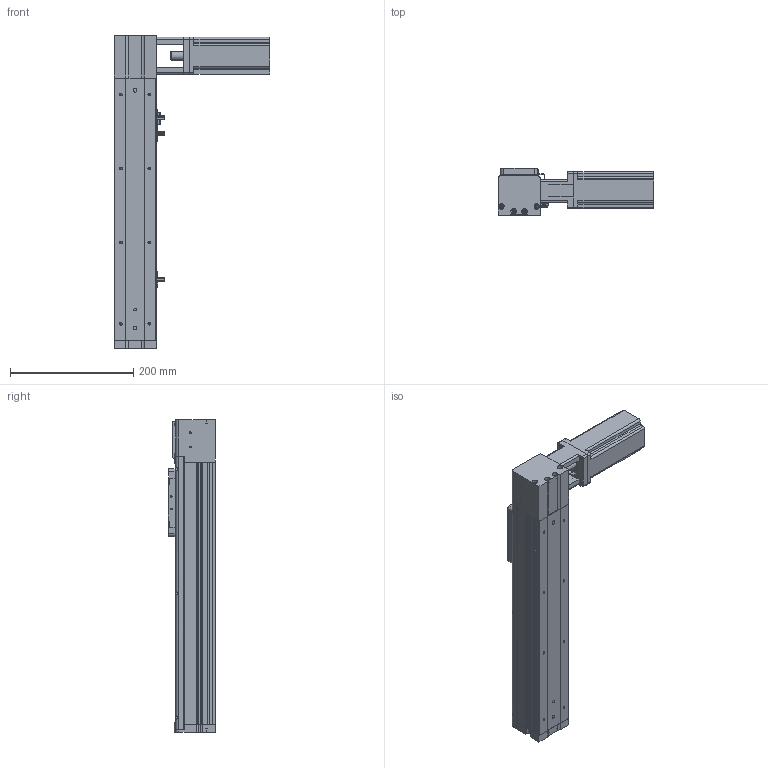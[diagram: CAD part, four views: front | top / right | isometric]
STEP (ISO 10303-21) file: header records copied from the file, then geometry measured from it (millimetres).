
FILE_DESCRIPTION (( 'STEP AP214' ), '1' );
FILE_NAME ('KSD68BS-S250-MRT-CR.STEP', '2019-11-08T01:18:06', ( '微软用户' ), ( '微软中国' ), 'SwSTEP 2.0', 'SolidWorks 2014', '' );
FILE_SCHEMA (( 'AUTOMOTIVE_DESIGN' ));
Length unit declared in the file: millimetre
Products named in the file (13): 100遵鎮湛假蚾啣1; KSD68BS 250行程盖板全封闭; 68遵裔啣揤啣1; 68宽单导轨全封闭丝杆传动安装板1防护罩; KSD68BS 250行程侧板全封闭; 68宽单导轨全封闭同步带端板; 68单导轨全封闭同步带电机座左; 68单导轨全封闭同步带安装板; 感应片68宽全封闭; U倰嫖萇EEㄜSX672; 台达ECMA－C20604AS伺服电机（400W); KSD68BS 250行程底板全封闭; KSD68BS-S250-MRT-CR
Assembly tree (16 placements, depth 2):
  KSD68BS-S250-MRT-CR
    KSD68BS 250行程底板全封闭
    台达ECMA－C20604AS伺服电机（400W)
    U倰嫖萇EEㄜSX672  x3
    感应片68宽全封闭
    68单导轨全封闭同步带安装板
    68单导轨全封闭同步带电机座左
    68宽单导轨全封闭同步带端板
    KSD68BS 250行程侧板全封闭  x2
    68宽单导轨全封闭丝杆传动安装板1防护罩
    68遵裔啣揤啣1  x2
    KSD68BS 250行程盖板全封闭
    100遵鎮湛假蚾啣1
Bounding box: 252.7 x 77 x 508.1 mm (x, y, z)
Volume: 1475730.4 mm3; surface area: 456153.8 mm2
Topology: 17 solids, 17 shells, 1287 faces, 3608 edges, 2320 vertices
Faces by surface type: plane 594, cylinder 565, cone 128
Entity records: 39332 total; most frequent: CARTESIAN_POINT 6601, DIRECTION 5903, ORIENTED_EDGE 5668, EDGE_CURVE 2834, AXIS2_PLACEMENT_3D 2090, VERTEX_POINT 1858, LINE 1723, VECTOR 1723
